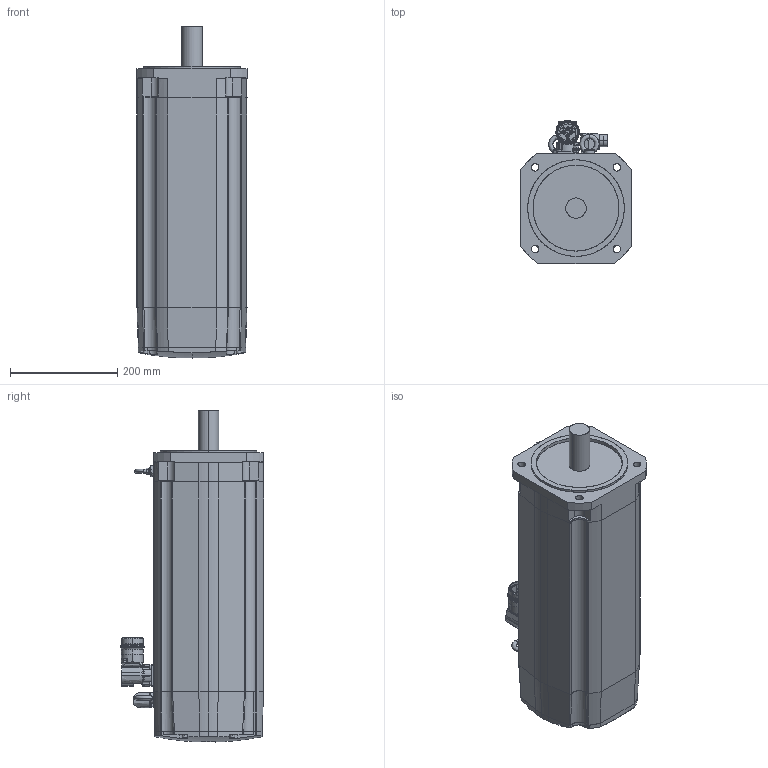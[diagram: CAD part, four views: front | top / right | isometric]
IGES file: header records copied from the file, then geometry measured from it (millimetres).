
Start section: SolidWorks IGES file using analytic representation for surfaces
Global section: file name: C:\PDM\SW-SAP\AA-IGES\SH32053x0xF2100.IGS; native system: SolidWorks 2010; preprocessor: SolidWorks 2010; author: SESA21951; date: 131129.141602; units: millimetre
Bounding box: 205 x 266.5 x 618.33 mm (x, y, z)
Surface area: 728779.7 mm2 (no closed solid volume)
Topology: 0 solids, 0 shells, 776 faces, 10342 edges, 10323 vertices
Faces by surface type: bspline 406, revolution 370
